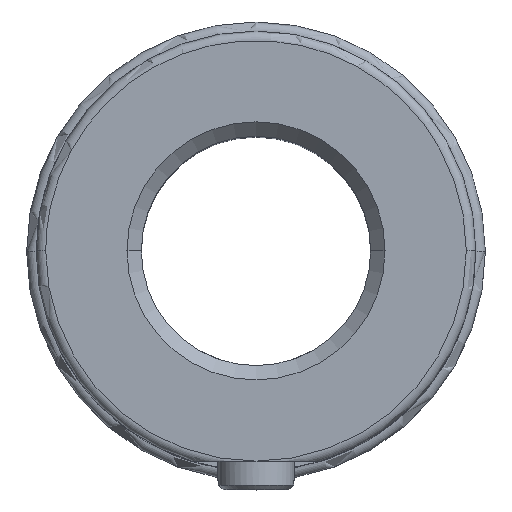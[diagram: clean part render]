
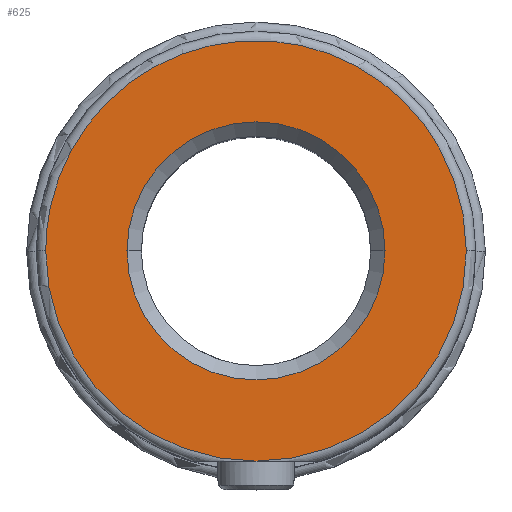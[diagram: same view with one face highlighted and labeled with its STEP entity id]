
A CAD part, top view. The second image highlights one B-rep face of the part: STEP entity #625.
In plain terms, the highlighted planar face has unit normal (0, 0, 1).
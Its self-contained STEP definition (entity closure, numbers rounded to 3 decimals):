
#276=CARTESIAN_POINT('Vertex',(0.,-22.,36.)) ;
#389=CARTESIAN_POINT('Vertex',(-13.5,0.,36.)) ;
#392=CARTESIAN_POINT('Axis2P3D Location',(0.,0.,36.)) ;
#396=CARTESIAN_POINT('Vertex',(13.5,0.,36.)) ;
#484=CARTESIAN_POINT('Vertex',(22.,0.,36.)) ;
#487=CARTESIAN_POINT('Axis2P3D Location',(0.,0.,36.)) ;
#508=CARTESIAN_POINT('Vertex',(-22.,0.,36.)) ;
#511=CARTESIAN_POINT('Axis2P3D Location',(0.,0.,36.)) ;
#573=CARTESIAN_POINT('Axis2P3D Location',(0.,0.,36.)) ;
#585=CARTESIAN_POINT('Axis2P3D Location',(-13.5,0.,36.)) ;
#591=CARTESIAN_POINT('Control Point',(22.,0.,36.)) ;
#592=CARTESIAN_POINT('Control Point',(22.,2.068,36.)) ;
#593=CARTESIAN_POINT('Control Point',(21.757,4.136,36.)) ;
#594=CARTESIAN_POINT('Control Point',(21.271,6.166,36.)) ;
#595=CARTESIAN_POINT('Control Point',(19.831,10.074,36.)) ;
#596=CARTESIAN_POINT('Control Point',(17.525,13.541,36.)) ;
#597=CARTESIAN_POINT('Control Point',(16.172,15.131,36.)) ;
#598=CARTESIAN_POINT('Control Point',(13.118,17.963,36.)) ;
#599=CARTESIAN_POINT('Control Point',(9.492,20.01,36.)) ;
#600=CARTESIAN_POINT('Control Point',(7.565,20.814,36.)) ;
#601=CARTESIAN_POINT('Control Point',(3.561,21.956,36.)) ;
#602=CARTESIAN_POINT('Control Point',(-0.6,22.139,36.)) ;
#603=CARTESIAN_POINT('Control Point',(-2.682,21.984,36.)) ;
#604=CARTESIAN_POINT('Control Point',(-6.769,21.188,36.)) ;
#605=CARTESIAN_POINT('Control Point',(-10.561,19.466,36.)) ;
#606=CARTESIAN_POINT('Control Point',(-12.347,18.385,36.)) ;
#607=CARTESIAN_POINT('Control Point',(-15.631,15.825,36.)) ;
#608=CARTESIAN_POINT('Control Point',(-18.232,12.572,36.)) ;
#609=CARTESIAN_POINT('Control Point',(-19.335,10.8,36.)) ;
#610=CARTESIAN_POINT('Control Point',(-20.824,7.625,36.)) ;
#611=CARTESIAN_POINT('Control Point',(-21.659,4.232,36.)) ;
#612=CARTESIAN_POINT('Control Point',(-21.886,2.829,36.)) ;
#613=CARTESIAN_POINT('Control Point',(-22.,1.415,36.)) ;
#614=CARTESIAN_POINT('Control Point',(-22.,0.,36.)) ;
#393=DIRECTION('Axis2P3D Direction',(0.,-0.,1.)) ;
#488=DIRECTION('Axis2P3D Direction',(0.,-0.,1.)) ;
#512=DIRECTION('Axis2P3D Direction',(0.,-0.,1.)) ;
#574=DIRECTION('Axis2P3D Direction',(0.,-0.,1.)) ;
#586=DIRECTION('Axis2P3D Direction',(0.,0.,-1.)) ;
#587=DIRECTION('Axis2P3D XDirection',(-1.,0.,-0.)) ;
#394=AXIS2_PLACEMENT_3D('Circle Axis2P3D',#392,#393,$) ;
#489=AXIS2_PLACEMENT_3D('Circle Axis2P3D',#487,#488,$) ;
#513=AXIS2_PLACEMENT_3D('Circle Axis2P3D',#511,#512,$) ;
#575=AXIS2_PLACEMENT_3D('Circle Axis2P3D',#573,#574,$) ;
#588=AXIS2_PLACEMENT_3D('Plane Axis2P3D',#585,#586,#587) ;
#617=ORIENTED_EDGE('',*,*,#491,.T.) ;
#618=ORIENTED_EDGE('',*,*,#615,.T.) ;
#619=ORIENTED_EDGE('',*,*,#515,.T.) ;
#622=ORIENTED_EDGE('',*,*,#577,.F.) ;
#623=ORIENTED_EDGE('',*,*,#398,.F.) ;
#624=FACE_BOUND('',#621,.T.) ;
#625=ADVANCED_FACE('744-24 sol1',(#620,#624),#589,.F.) ;
#590=B_SPLINE_CURVE_WITH_KNOTS('',5,(#591,#592,#593,#594,#595,#596,#597,#598,#599,#600,#601,#602,#603,#604,#605,#606,#607,#608,#609,#610,#611,#612,#613,#614),.UNSPECIFIED.,.F.,.U.,(6,3,3,3,3,3,3,6),(0.,14.623,29.246,43.869,58.493,73.116,87.739,97.743),.UNSPECIFIED.) ;
#395=CIRCLE('generated circle',#394,13.5) ;
#490=CIRCLE('generated circle',#489,22.) ;
#514=CIRCLE('generated circle',#513,22.) ;
#576=CIRCLE('generated circle',#575,13.5) ;
#398=EDGE_CURVE('',#390,#397,#395,.T.) ;
#491=EDGE_CURVE('',#277,#485,#490,.T.) ;
#515=EDGE_CURVE('',#509,#277,#514,.T.) ;
#577=EDGE_CURVE('',#397,#390,#576,.T.) ;
#615=EDGE_CURVE('',#485,#509,#590,.T.) ;
#616=EDGE_LOOP('',(#617,#618,#619)) ;
#621=EDGE_LOOP('',(#622,#623)) ;
#620=FACE_OUTER_BOUND('',#616,.T.) ;
#589=PLANE('Plane',#588) ;
#277=VERTEX_POINT('',#276) ;
#390=VERTEX_POINT('',#389) ;
#397=VERTEX_POINT('',#396) ;
#485=VERTEX_POINT('',#484) ;
#509=VERTEX_POINT('',#508) ;
